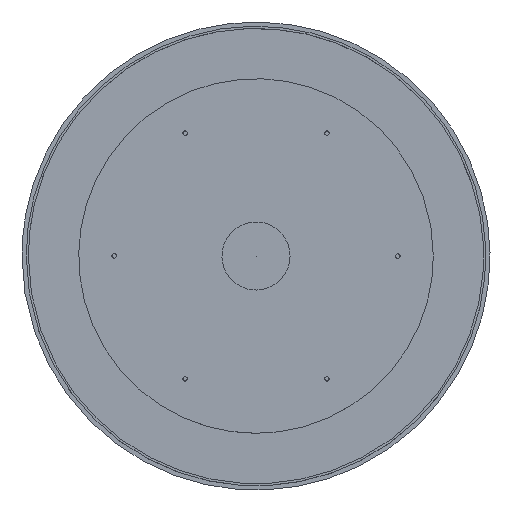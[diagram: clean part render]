
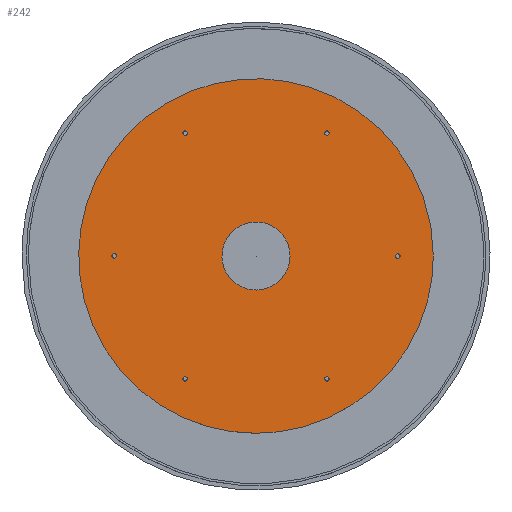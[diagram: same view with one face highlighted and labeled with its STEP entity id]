
A CAD part, top view. The second image highlights one B-rep face of the part: STEP entity #242.
In plain terms, the highlighted planar face has unit normal (0, 0, 1).
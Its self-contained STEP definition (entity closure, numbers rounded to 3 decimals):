
#35=PLANE('',#3308);
#178=FACE_BOUND('',#704,.T.);
#179=FACE_BOUND('',#705,.T.);
#180=FACE_BOUND('',#706,.T.);
#181=FACE_BOUND('',#707,.T.);
#182=FACE_BOUND('',#708,.T.);
#183=FACE_BOUND('',#709,.T.);
#184=FACE_BOUND('',#710,.T.);
#242=ADVANCED_FACE('',(#451,#178,#179,#180,#181,#182,#183,#184),#35,.T.);
#451=FACE_OUTER_BOUND('',#703,.T.);
#703=EDGE_LOOP('',(#1098));
#704=EDGE_LOOP('',(#1099));
#705=EDGE_LOOP('',(#1100));
#706=EDGE_LOOP('',(#1101));
#707=EDGE_LOOP('',(#1102));
#708=EDGE_LOOP('',(#1103));
#709=EDGE_LOOP('',(#1104));
#710=EDGE_LOOP('',(#1105));
#1098=ORIENTED_EDGE('',*,*,#1909,.T.);
#1099=ORIENTED_EDGE('',*,*,#1911,.T.);
#1100=ORIENTED_EDGE('',*,*,#1913,.F.);
#1101=ORIENTED_EDGE('',*,*,#1916,.F.);
#1102=ORIENTED_EDGE('',*,*,#1919,.F.);
#1103=ORIENTED_EDGE('',*,*,#1922,.F.);
#1104=ORIENTED_EDGE('',*,*,#1925,.F.);
#1105=ORIENTED_EDGE('',*,*,#1928,.F.);
#1909=EDGE_CURVE('',#2824,#2824,#2540,.T.);
#1911=EDGE_CURVE('',#2826,#2826,#2542,.T.);
#1913=EDGE_CURVE('',#2828,#2828,#2544,.T.);
#1916=EDGE_CURVE('',#2829,#2829,#2546,.T.);
#1919=EDGE_CURVE('',#2831,#2831,#2548,.T.);
#1922=EDGE_CURVE('',#2833,#2833,#2550,.T.);
#1925=EDGE_CURVE('',#2835,#2835,#2552,.T.);
#1928=EDGE_CURVE('',#2837,#2837,#2554,.T.);
#2540=(
BOUNDED_CURVE()
B_SPLINE_CURVE(2,(#5711,#5712,#5713,#5714,#5715,#5716,#5717,#5718,#5719),
 .UNSPECIFIED.,.T.,.F.)
B_SPLINE_CURVE_WITH_KNOTS((3,2,2,2,3),(0.,392.699,785.398,
1178.097,1570.796),.UNSPECIFIED.)
CURVE()
GEOMETRIC_REPRESENTATION_ITEM()
RATIONAL_B_SPLINE_CURVE((1.,0.707,1.,0.707,1.,0.707,
1.,0.707,1.))
REPRESENTATION_ITEM('')
);
#2542=(
BOUNDED_CURVE()
B_SPLINE_CURVE(2,(#5729,#5730,#5731,#5732,#5733,#5734,#5735,#5736,#5737),
 .UNSPECIFIED.,.T.,.F.)
B_SPLINE_CURVE_WITH_KNOTS((3,2,2,2,3),(-301.593,-226.195,
-150.796,-75.398,0.),.UNSPECIFIED.)
CURVE()
GEOMETRIC_REPRESENTATION_ITEM()
RATIONAL_B_SPLINE_CURVE((1.,0.707,1.,0.707,1.,0.707,
1.,0.707,1.))
REPRESENTATION_ITEM('')
);
#2544=(
BOUNDED_CURVE()
B_SPLINE_CURVE(2,(#5740,#5741,#5742,#5743,#5744,#5745,#5746,#5747,#5748),
 .UNSPECIFIED.,.T.,.F.)
B_SPLINE_CURVE_WITH_KNOTS((3,2,2,2,3),(0.,4.869,9.739,
14.608,19.478),.UNSPECIFIED.)
CURVE()
GEOMETRIC_REPRESENTATION_ITEM()
RATIONAL_B_SPLINE_CURVE((1.,0.707,1.,0.707,1.,0.707,
1.,0.707,1.))
REPRESENTATION_ITEM('')
);
#2546=(
BOUNDED_CURVE()
B_SPLINE_CURVE(2,(#5760,#5761,#5762,#5763,#5764,#5765,#5766,#5767,#5768),
 .UNSPECIFIED.,.T.,.F.)
B_SPLINE_CURVE_WITH_KNOTS((3,2,2,2,3),(0.,4.869,9.739,
14.608,19.478),.UNSPECIFIED.)
CURVE()
GEOMETRIC_REPRESENTATION_ITEM()
RATIONAL_B_SPLINE_CURVE((1.,0.707,1.,0.707,1.,0.707,
1.,0.707,1.))
REPRESENTATION_ITEM('')
);
#2548=(
BOUNDED_CURVE()
B_SPLINE_CURVE(2,(#5780,#5781,#5782,#5783,#5784,#5785,#5786,#5787,#5788),
 .UNSPECIFIED.,.T.,.F.)
B_SPLINE_CURVE_WITH_KNOTS((3,2,2,2,3),(0.,4.869,9.739,
14.608,19.478),.UNSPECIFIED.)
CURVE()
GEOMETRIC_REPRESENTATION_ITEM()
RATIONAL_B_SPLINE_CURVE((1.,0.707,1.,0.707,1.,0.707,
1.,0.707,1.))
REPRESENTATION_ITEM('')
);
#2550=(
BOUNDED_CURVE()
B_SPLINE_CURVE(2,(#5800,#5801,#5802,#5803,#5804,#5805,#5806,#5807,#5808),
 .UNSPECIFIED.,.T.,.F.)
B_SPLINE_CURVE_WITH_KNOTS((3,2,2,2,3),(0.,4.869,9.739,
14.608,19.478),.UNSPECIFIED.)
CURVE()
GEOMETRIC_REPRESENTATION_ITEM()
RATIONAL_B_SPLINE_CURVE((1.,0.707,1.,0.707,1.,0.707,
1.,0.707,1.))
REPRESENTATION_ITEM('')
);
#2552=(
BOUNDED_CURVE()
B_SPLINE_CURVE(2,(#5820,#5821,#5822,#5823,#5824,#5825,#5826,#5827,#5828),
 .UNSPECIFIED.,.T.,.F.)
B_SPLINE_CURVE_WITH_KNOTS((3,2,2,2,3),(0.,4.869,9.739,
14.608,19.478),.UNSPECIFIED.)
CURVE()
GEOMETRIC_REPRESENTATION_ITEM()
RATIONAL_B_SPLINE_CURVE((1.,0.707,1.,0.707,1.,0.707,
1.,0.707,1.))
REPRESENTATION_ITEM('')
);
#2554=(
BOUNDED_CURVE()
B_SPLINE_CURVE(2,(#5840,#5841,#5842,#5843,#5844,#5845,#5846,#5847,#5848),
 .UNSPECIFIED.,.T.,.F.)
B_SPLINE_CURVE_WITH_KNOTS((3,2,2,2,3),(0.,4.869,9.739,
14.608,19.478),.UNSPECIFIED.)
CURVE()
GEOMETRIC_REPRESENTATION_ITEM()
RATIONAL_B_SPLINE_CURVE((1.,0.707,1.,0.707,1.,0.707,
1.,0.707,1.))
REPRESENTATION_ITEM('')
);
#2824=VERTEX_POINT('',#5374);
#2826=VERTEX_POINT('',#5376);
#2828=VERTEX_POINT('',#5378);
#2829=VERTEX_POINT('',#5379);
#2831=VERTEX_POINT('',#5381);
#2833=VERTEX_POINT('',#5383);
#2835=VERTEX_POINT('',#5385);
#2837=VERTEX_POINT('',#5387);
#3308=AXIS2_PLACEMENT_3D('',#4985,#3473,$);
#3473=DIRECTION('',(0.,0.,1.));
#4985=CARTESIAN_POINT('',(-312.5,-312.5,0.));
#5374=CARTESIAN_POINT('',(250.,0.,0.));
#5376=CARTESIAN_POINT('',(48.,0.,0.));
#5378=CARTESIAN_POINT('',(102.685,171.655,0.));
#5379=CARTESIAN_POINT('',(-97.315,174.755,0.));
#5381=CARTESIAN_POINT('',(-200.,3.1,0.));
#5383=CARTESIAN_POINT('',(-102.685,-171.655,0.));
#5385=CARTESIAN_POINT('',(97.315,-174.755,0.));
#5387=CARTESIAN_POINT('',(200.,-3.1,0.));
#5711=CARTESIAN_POINT('',(250.,0.,0.));
#5712=CARTESIAN_POINT('',(250.,250.,0.));
#5713=CARTESIAN_POINT('',(0.,250.,0.));
#5714=CARTESIAN_POINT('',(-250.,250.,0.));
#5715=CARTESIAN_POINT('',(-250.,0.,0.));
#5716=CARTESIAN_POINT('',(-250.,-250.,0.));
#5717=CARTESIAN_POINT('',(0.,-250.,0.));
#5718=CARTESIAN_POINT('',(250.,-250.,0.));
#5719=CARTESIAN_POINT('',(250.,0.,0.));
#5729=CARTESIAN_POINT('',(48.,0.,0.));
#5730=CARTESIAN_POINT('',(48.,-48.,0.));
#5731=CARTESIAN_POINT('',(0.,-48.,0.));
#5732=CARTESIAN_POINT('',(-48.,-48.,0.));
#5733=CARTESIAN_POINT('',(-48.,0.,0.));
#5734=CARTESIAN_POINT('',(-48.,48.,0.));
#5735=CARTESIAN_POINT('',(0.,48.,0.));
#5736=CARTESIAN_POINT('',(48.,48.,0.));
#5737=CARTESIAN_POINT('',(48.,0.,0.));
#5740=CARTESIAN_POINT('',(102.685,171.655,0.));
#5741=CARTESIAN_POINT('',(104.235,174.34,0.));
#5742=CARTESIAN_POINT('',(101.55,175.89,0.));
#5743=CARTESIAN_POINT('',(98.865,177.44,0.));
#5744=CARTESIAN_POINT('',(97.315,174.755,0.));
#5745=CARTESIAN_POINT('',(95.765,172.07,0.));
#5746=CARTESIAN_POINT('',(98.45,170.52,0.));
#5747=CARTESIAN_POINT('',(101.135,168.97,0.));
#5748=CARTESIAN_POINT('',(102.685,171.655,0.));
#5760=CARTESIAN_POINT('',(-97.315,174.755,0.));
#5761=CARTESIAN_POINT('',(-98.865,177.44,0.));
#5762=CARTESIAN_POINT('',(-101.55,175.89,0.));
#5763=CARTESIAN_POINT('',(-104.235,174.34,0.));
#5764=CARTESIAN_POINT('',(-102.685,171.655,0.));
#5765=CARTESIAN_POINT('',(-101.135,168.97,0.));
#5766=CARTESIAN_POINT('',(-98.45,170.52,0.));
#5767=CARTESIAN_POINT('',(-95.765,172.07,0.));
#5768=CARTESIAN_POINT('',(-97.315,174.755,0.));
#5780=CARTESIAN_POINT('',(-200.,3.1,0.));
#5781=CARTESIAN_POINT('',(-203.1,3.1,0.));
#5782=CARTESIAN_POINT('',(-203.1,0.,0.));
#5783=CARTESIAN_POINT('',(-203.1,-3.1,0.));
#5784=CARTESIAN_POINT('',(-200.,-3.1,0.));
#5785=CARTESIAN_POINT('',(-196.9,-3.1,0.));
#5786=CARTESIAN_POINT('',(-196.9,0.,0.));
#5787=CARTESIAN_POINT('',(-196.9,3.1,0.));
#5788=CARTESIAN_POINT('',(-200.,3.1,0.));
#5800=CARTESIAN_POINT('',(-102.685,-171.655,0.));
#5801=CARTESIAN_POINT('',(-104.235,-174.34,0.));
#5802=CARTESIAN_POINT('',(-101.55,-175.89,0.));
#5803=CARTESIAN_POINT('',(-98.865,-177.44,0.));
#5804=CARTESIAN_POINT('',(-97.315,-174.755,0.));
#5805=CARTESIAN_POINT('',(-95.765,-172.07,0.));
#5806=CARTESIAN_POINT('',(-98.45,-170.52,0.));
#5807=CARTESIAN_POINT('',(-101.135,-168.97,0.));
#5808=CARTESIAN_POINT('',(-102.685,-171.655,0.));
#5820=CARTESIAN_POINT('',(97.315,-174.755,0.));
#5821=CARTESIAN_POINT('',(98.865,-177.44,0.));
#5822=CARTESIAN_POINT('',(101.55,-175.89,0.));
#5823=CARTESIAN_POINT('',(104.235,-174.34,0.));
#5824=CARTESIAN_POINT('',(102.685,-171.655,0.));
#5825=CARTESIAN_POINT('',(101.135,-168.97,0.));
#5826=CARTESIAN_POINT('',(98.45,-170.52,0.));
#5827=CARTESIAN_POINT('',(95.765,-172.07,0.));
#5828=CARTESIAN_POINT('',(97.315,-174.755,0.));
#5840=CARTESIAN_POINT('',(200.,-3.1,0.));
#5841=CARTESIAN_POINT('',(203.1,-3.1,0.));
#5842=CARTESIAN_POINT('',(203.1,0.,0.));
#5843=CARTESIAN_POINT('',(203.1,3.1,0.));
#5844=CARTESIAN_POINT('',(200.,3.1,0.));
#5845=CARTESIAN_POINT('',(196.9,3.1,0.));
#5846=CARTESIAN_POINT('',(196.9,0.,0.));
#5847=CARTESIAN_POINT('',(196.9,-3.1,0.));
#5848=CARTESIAN_POINT('',(200.,-3.1,0.));
